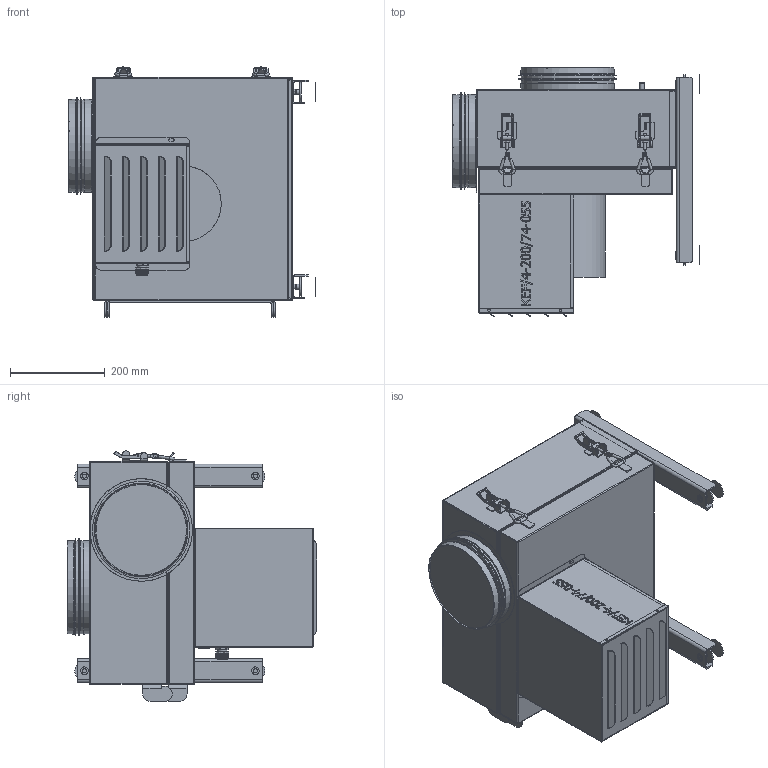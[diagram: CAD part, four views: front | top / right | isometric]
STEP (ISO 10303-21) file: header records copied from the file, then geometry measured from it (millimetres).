
FILE_DESCRIPTION(/* description */ (''),/* implementation_level */ '2;1');
FILE_NAME(/* name */ 'E:\iNVENTOR\KEF\KEF_4-200_74-055_45013030_45013035\KEF_4-200_74-055_45013030_45013035 3D.stp',/* time_stamp */ '2019-06-25T15:22:43+02:00',/* author */ ('BartoszLac'),/* organization */ (''),/* preprocessor_version */ 'ST-DEVELOPER v17',/* originating_system */ 'Autodesk Inventor 2019',/* authorisation */ '');
FILE_SCHEMA (('AUTOMOTIVE_DESIGN { 1 0 10303 214 3 1 1 }'));
Products named in the file (1): 2 874 122 520
Bounding box: 519.5 x 524.86 x 527 mm (x, y, z)
Volume: 31012168.8 mm3; surface area: 3314516.4 mm2
Topology: 12 solids, 28 shells, 3723 faces, 10185 edges, 6586 vertices
Faces by surface type: plane 2555, cylinder 606, bspline 343, cone 139, torus 79, sphere 1
Full cylindrical faces by diameter (mm): 3 x6, 5 x34, 6 x12, 7 x1, 8 x4, 8.6 x8, 9 x1, 9.2 x4, 10 x4, 10.9 x4, 11 x1, 13 x1, 13.5 x1, 15 x2, 16 x6, 20 x4, 21 x1, 23 x1, 24 x1, 40.4 x4, 158.821 x2, 190.8 x4, 194 x2, 195 x4, 195.2 x2, 196 x2, 203 x1, 205 x4, 216 x2, 228 x1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
Entity records: 129241 total; most frequent: CARTESIAN_POINT 32688, ORIENTED_EDGE 20350, DIRECTION 18235, EDGE_CURVE 10175, LINE 6865, VECTOR 6865, VERTEX_POINT 6586, AXIS2_PLACEMENT_3D 5685
